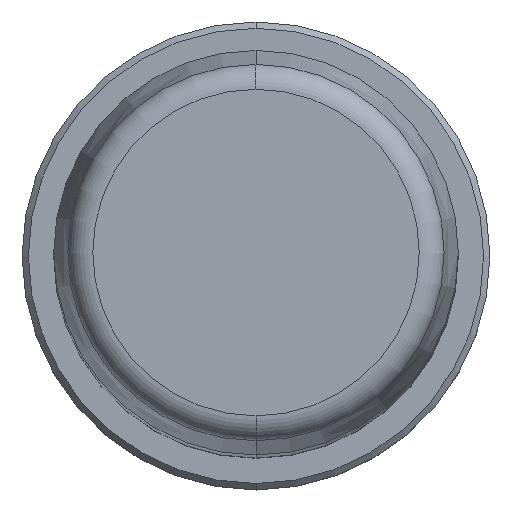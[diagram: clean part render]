
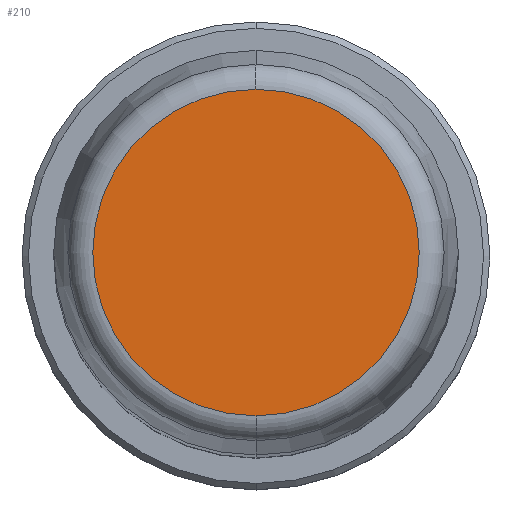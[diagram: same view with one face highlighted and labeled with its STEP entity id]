
A CAD part, top view. The second image highlights one B-rep face of the part: STEP entity #210.
In plain terms, the highlighted planar face has unit normal (0, 0, 1).
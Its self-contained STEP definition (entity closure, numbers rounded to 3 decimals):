
#1=CARTESIAN_POINT('',(0.,0.,160.));
#2=DIRECTION('',(0.,0.,-1.));
#3=DIRECTION('',(0.,-1.,0.));
#4=AXIS2_PLACEMENT_3D('',#1,#2,#3);
#6=CARTESIAN_POINT('',(0.,0.,160.));
#7=DIRECTION('',(0.,0.,-1.));
#8=DIRECTION('',(0.,1.,0.));
#9=AXIS2_PLACEMENT_3D('',#6,#7,#8);
#183=CARTESIAN_POINT('',(0.,-12.911,160.));
#184=CARTESIAN_POINT('',(0.,12.911,160.));
#185=VERTEX_POINT('',#183);
#186=VERTEX_POINT('',#184);
#199=CARTESIAN_POINT('',(0.,0.,160.));
#200=DIRECTION('',(0.,0.,1.));
#201=DIRECTION('',(0.,-1.,0.));
#202=AXIS2_PLACEMENT_3D('',#199,#200,#201);
#203=PLANE('',#202);
#205=ORIENTED_EDGE('',*,*,#204,.T.);
#207=ORIENTED_EDGE('',*,*,#206,.T.);
#208=EDGE_LOOP('',(#205,#207));
#209=FACE_OUTER_BOUND('',#208,.F.);
#210=ADVANCED_FACE('',(#209),#203,.T.);
#5=CIRCLE('',#4,12.911);
#10=CIRCLE('',#9,12.911);
#204=EDGE_CURVE('',#185,#186,#5,.T.);
#206=EDGE_CURVE('',#186,#185,#10,.T.);
